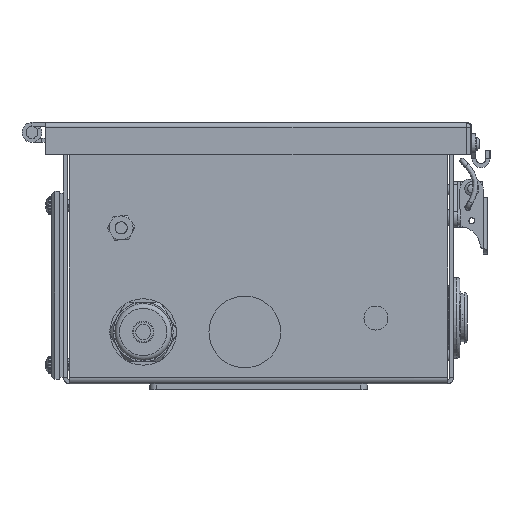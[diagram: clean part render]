
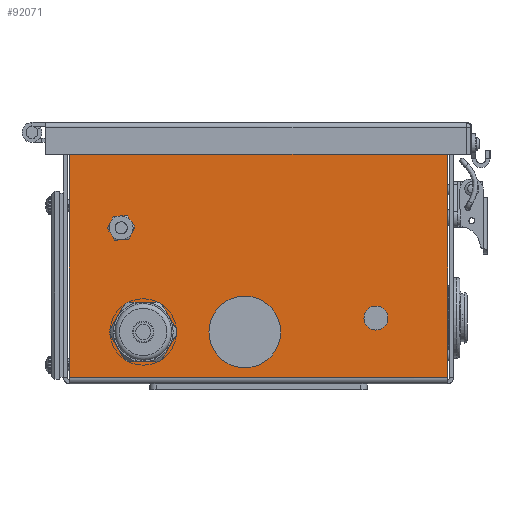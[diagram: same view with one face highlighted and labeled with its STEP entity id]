
A CAD part, front view. The second image highlights one B-rep face of the part: STEP entity #92071.
In plain terms, the highlighted planar face has unit normal (0, -1, 0).
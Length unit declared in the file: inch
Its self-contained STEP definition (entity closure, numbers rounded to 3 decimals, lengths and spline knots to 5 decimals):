
#34 = FACE_BOUND ( 'NONE', #101005, .T. ) ;
#990 = VECTOR ( 'NONE', #110526, 39.37008 ) ;
#1161 = ORIENTED_EDGE ( 'NONE', *, *, #83290, .T. ) ;
#2704 = CARTESIAN_POINT ( 'NONE',  ( -0.91275, 0.76021, 3.70718 ) ) ;
#6738 = ORIENTED_EDGE ( 'NONE', *, *, #16698, .F. ) ;
#6998 = EDGE_CURVE ( 'NONE', #132306, #17907, #34140, .T. ) ;
#9573 = DIRECTION ( 'NONE',  ( 0., -1., 0. ) ) ;
#9663 = CIRCLE ( 'NONE', #45344, 0.4375 ) ;
#11961 = PLANE ( 'NONE',  #19124 ) ;
#12196 = CIRCLE ( 'NONE', #134185, 0.4375 ) ;
#16630 = CARTESIAN_POINT ( 'NONE',  ( -0.91275, 0.76021, 3.74655 ) ) ;
#16698 = EDGE_CURVE ( 'NONE', #114461, #114461, #12196, .T. ) ;
#17362 = VECTOR ( 'NONE', #82719, 39.37008 ) ;
#17907 = VERTEX_POINT ( 'NONE', #16630 ) ;
#19124 = AXIS2_PLACEMENT_3D ( 'NONE', #98774, #120954, #62125 ) ;
#22614 = VECTOR ( 'NONE', #77552, 39.37008 ) ;
#26443 = EDGE_LOOP ( 'NONE', ( #152295 ) ) ;
#27991 = VERTEX_POINT ( 'NONE', #76561 ) ;
#28559 = CARTESIAN_POINT ( 'NONE',  ( 1.84341, 0.76021, 4.46018 ) ) ;
#28956 = CARTESIAN_POINT ( 'NONE',  ( -0.09759, 0.76021, 5.99968 ) ) ;
#28986 = LINE ( 'NONE', #2704, #22614 ) ;
#30098 = DIRECTION ( 'NONE',  ( 0., 0., -1. ) ) ;
#34140 = LINE ( 'NONE', #69225, #17362 ) ;
#40488 = DIRECTION ( 'NONE',  ( 0., -1., 0. ) ) ;
#44410 = VERTEX_POINT ( 'NONE', #81058 ) ;
#44591 = CARTESIAN_POINT ( 'NONE',  ( 5.03057, 0.76021, 7.43421 ) ) ;
#45344 = AXIS2_PLACEMENT_3D ( 'NONE', #70127, #9573, #102789 ) ;
#45728 = EDGE_LOOP ( 'NONE', ( #81322, #1161, #112878, #81359 ) ) ;
#51682 = CARTESIAN_POINT ( 'NONE',  ( 5.03057, 0.76021, 7.43421 ) ) ;
#52631 = ORIENTED_EDGE ( 'NONE', *, *, #59968, .F. ) ;
#57277 = VERTEX_POINT ( 'NONE', #108378 ) ;
#59756 = FACE_OUTER_BOUND ( 'NONE', #45728, .T. ) ;
#59968 = EDGE_CURVE ( 'NONE', #77514, #77514, #67151, .T. ) ;
#62125 = DIRECTION ( 'NONE',  ( 0., 0., 1. ) ) ;
#67151 = CIRCLE ( 'NONE', #90184, 0.0945 ) ;
#69225 = CARTESIAN_POINT ( 'NONE',  ( -1.00359, 0.76021, 3.74655 ) ) ;
#70127 = CARTESIAN_POINT ( 'NONE',  ( 0.24941, 0.76021, 4.46018 ) ) ;
#73937 = CARTESIAN_POINT ( 'NONE',  ( 5.03057, 0.76021, 3.74655 ) ) ;
#74099 = FACE_BOUND ( 'NONE', #154027, .T. ) ;
#75000 = DIRECTION ( 'NONE',  ( 0., 0., -1. ) ) ;
#76561 = CARTESIAN_POINT ( 'NONE',  ( 3.90241, 0.76021, 4.49068 ) ) ;
#77514 = VERTEX_POINT ( 'NONE', #28956 ) ;
#77552 = DIRECTION ( 'NONE',  ( 0., 0., 1. ) ) ;
#81058 = CARTESIAN_POINT ( 'NONE',  ( 0.24941, 0.76021, 4.02268 ) ) ;
#81322 = ORIENTED_EDGE ( 'NONE', *, *, #124156, .T. ) ;
#81359 = ORIENTED_EDGE ( 'NONE', *, *, #6998, .F. ) ;
#82719 = DIRECTION ( 'NONE',  ( -1., 0., 0. ) ) ;
#83290 = EDGE_CURVE ( 'NONE', #83586, #57277, #132840, .T. ) ;
#83586 = VERTEX_POINT ( 'NONE', #51682 ) ;
#84146 = EDGE_CURVE ( 'NONE', #17907, #57277, #28986, .T. ) ;
#89876 = CARTESIAN_POINT ( 'NONE',  ( 1.84341, 0.76021, 4.02268 ) ) ;
#90184 = AXIS2_PLACEMENT_3D ( 'NONE', #125201, #114880, #114081 ) ;
#92071 = ADVANCED_FACE ( 'NONE', ( #132916, #34, #74099, #59756, #147977 ), #11961, .F. ) ;
#95602 = EDGE_CURVE ( 'NONE', #27991, #27991, #149589, .T. ) ;
#96740 = ORIENTED_EDGE ( 'NONE', *, *, #95602, .F. ) ;
#97886 = CARTESIAN_POINT ( 'NONE',  ( 5.03057, 0.76021, 3.64418 ) ) ;
#98774 = CARTESIAN_POINT ( 'NONE',  ( 2.05891, 0.76021, 3.64418 ) ) ;
#101005 = EDGE_LOOP ( 'NONE', ( #6738 ) ) ;
#102789 = DIRECTION ( 'NONE',  ( 0., 0., -1. ) ) ;
#108378 = CARTESIAN_POINT ( 'NONE',  ( -0.91275, 0.76021, 7.43421 ) ) ;
#110526 = DIRECTION ( 'NONE',  ( 0., 0., 1. ) ) ;
#111182 = VECTOR ( 'NONE', #144746, 39.37008 ) ;
#112878 = ORIENTED_EDGE ( 'NONE', *, *, #84146, .F. ) ;
#114081 = DIRECTION ( 'NONE',  ( 0., 0., -1. ) ) ;
#114461 = VERTEX_POINT ( 'NONE', #89876 ) ;
#114880 = DIRECTION ( 'NONE',  ( 0., -1., 0. ) ) ;
#120954 = DIRECTION ( 'NONE',  ( 0., 1., 0. ) ) ;
#121078 = DIRECTION ( 'NONE',  ( 0., -1., 0. ) ) ;
#124156 = EDGE_CURVE ( 'NONE', #132306, #83586, #135177, .T. ) ;
#125201 = CARTESIAN_POINT ( 'NONE',  ( -0.09759, 0.76021, 6.09418 ) ) ;
#132306 = VERTEX_POINT ( 'NONE', #73937 ) ;
#132840 = LINE ( 'NONE', #44591, #111182 ) ;
#132916 = FACE_BOUND ( 'NONE', #157085, .T. ) ;
#133814 = CARTESIAN_POINT ( 'NONE',  ( 3.90241, 0.76021, 4.67818 ) ) ;
#134185 = AXIS2_PLACEMENT_3D ( 'NONE', #28559, #40488, #30098 ) ;
#135177 = LINE ( 'NONE', #97886, #990 ) ;
#141894 = EDGE_CURVE ( 'NONE', #44410, #44410, #9663, .T. ) ;
#144746 = DIRECTION ( 'NONE',  ( -1., 0., 0. ) ) ;
#147977 = FACE_BOUND ( 'NONE', #26443, .T. ) ;
#149589 = CIRCLE ( 'NONE', #152224, 0.1875 ) ;
#152224 = AXIS2_PLACEMENT_3D ( 'NONE', #133814, #121078, #75000 ) ;
#152295 = ORIENTED_EDGE ( 'NONE', *, *, #141894, .F. ) ;
#154027 = EDGE_LOOP ( 'NONE', ( #52631 ) ) ;
#157085 = EDGE_LOOP ( 'NONE', ( #96740 ) ) ;
